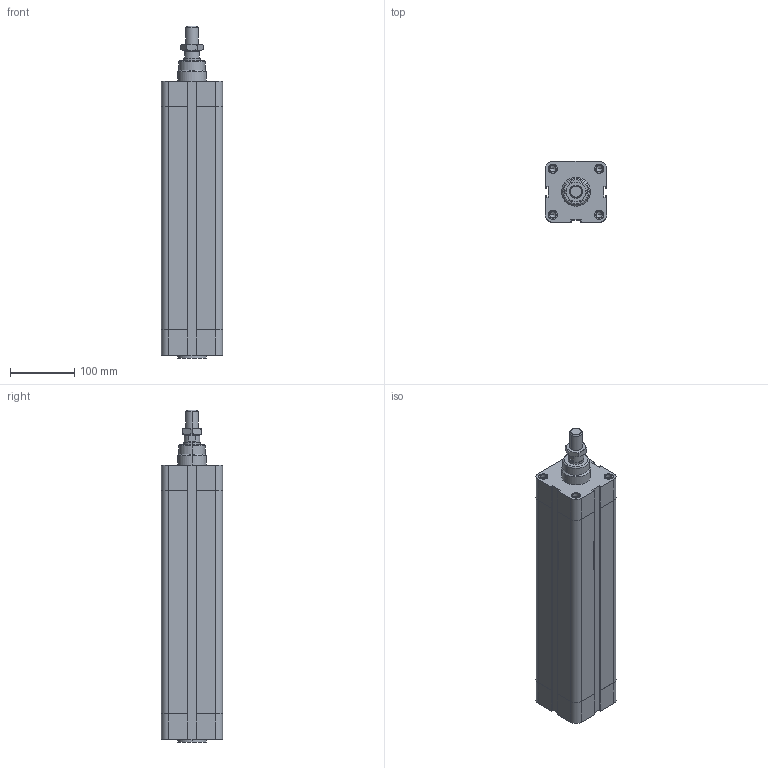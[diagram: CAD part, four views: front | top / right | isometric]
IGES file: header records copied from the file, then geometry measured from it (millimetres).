
Global section: file name: No Iges File Name specified; native system: AutoDesk Inventor R6.1; preprocessor: AutoDesk Inventor Iges Exporter R6.1; author: No Author specified; organization: No Organization specified; date: 20040107.171259; units: millimetre
Bounding box: 95.5 x 95.5 x 518 mm (x, y, z)
Volume: 3808331.9 mm3; surface area: 268778.5 mm2
Topology: 3 solids, 3 shells, 244 faces, 570 edges, 356 vertices
Faces by surface type: plane 83, bspline 67, cylinder 34, revolution 34, cone 24, torus 2
